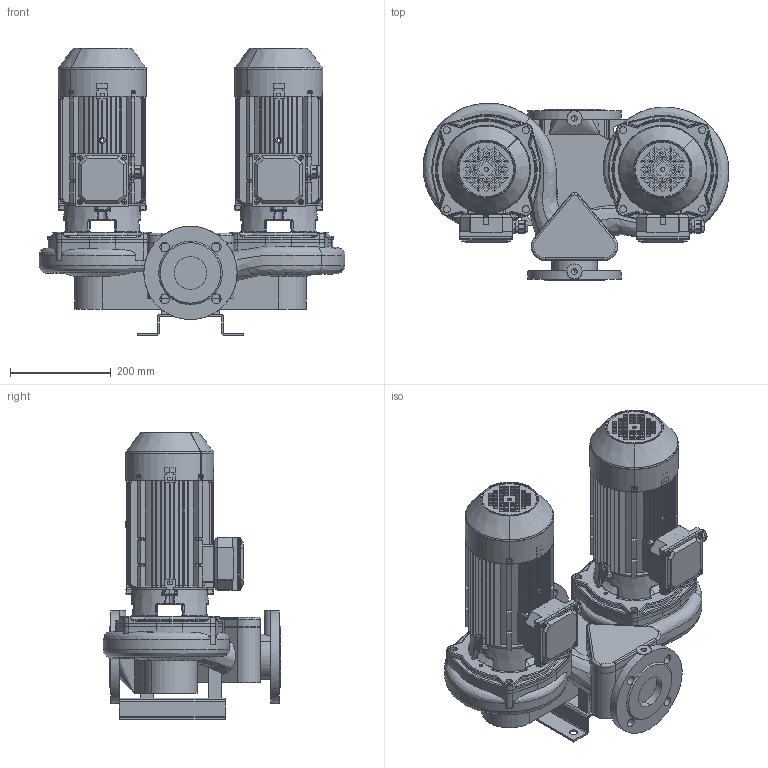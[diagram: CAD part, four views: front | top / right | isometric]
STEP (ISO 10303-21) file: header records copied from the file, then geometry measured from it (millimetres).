
FILE_DESCRIPTION(('STEP AP214'),'1');
FILE_NAME('export.stp','2018-05-30T07:48:53',(' '),(' '),'Spatial InterOp 3D',' ',' ');
FILE_SCHEMA(('AUTOMOTIVE_DESIGN { 1 0 10303 214 1 1 1 1 }'));
Length unit declared in the file: millimetre
Products named in the file (33): W_T65B2220_KP90; V_TLL65AB80A1102; V_PPT65AB; V_JALKA35973; 160024; 160004_Valu; V_MKP90_1_F19; M5x8_DIN; DIN_7985-M5X8; 160141; M5x12_DIN; DIN_7985-M5X12; 160137; 160138; 160139; 160140; Koura_Ale_M5; Plug_Blind_M20; Sealing_Plug_M20; 160048___; 160068___; 160135
Assembly tree (52 placements, depth 5):
  W_T65B2220_KP90
    V_TLL65AB80A1102  x2
    V_PPT65AB
    V_JALKA35973
    V_MKP90_1_F19
      160024
        160004_Valu
      160141
        M5x8_DIN
          DIN_7985-M5X8
        M5x12_DIN
          DIN_7985-M5X12
        M5x12_DIN
          DIN_7985-M5X12
        M5x12_DIN
          DIN_7985-M5X12
        M5x12_DIN
          DIN_7985-M5X12
        160137
        160138
        160139
        160140
        Koura_Ale_M5
        Plug_Blind_M20
        Sealing_Plug_M20
      160048___
      160068___
      160135
    V_MKP90_1_F19
      160024
        160004_Valu
      160141
        M5x8_DIN
          DIN_7985-M5X8
        M5x12_DIN
          DIN_7985-M5X12
        M5x12_DIN
          DIN_7985-M5X12
        M5x12_DIN
          DIN_7985-M5X12
        M5x12_DIN
          DIN_7985-M5X12
        160137
        160138
        160139
        160140
        Koura_Ale_M5
        Plug_Blind_M20
        Sealing_Plug_M20
      160048___
      160068___
      160135
Bounding box: 606.16 x 351.9 x 571 mm (x, y, z)
Volume: 18860861.9 mm3; surface area: 4616794.6 mm2
Topology: 38 solids, 38 shells, 5001 faces, 13266 edges, 8323 vertices
Faces by surface type: plane 2066, cylinder 1517, torus 554, bspline 500, cone 290, sphere 74
Entity records: 103314 total; most frequent: CARTESIAN_POINT 35984, ORIENTED_EDGE 13564, DIRECTION 12613, EDGE_CURVE 6782, AXIS2_PLACEMENT_3D 4761, VERTEX_POINT 4306, LINE 3091, VECTOR 3091
